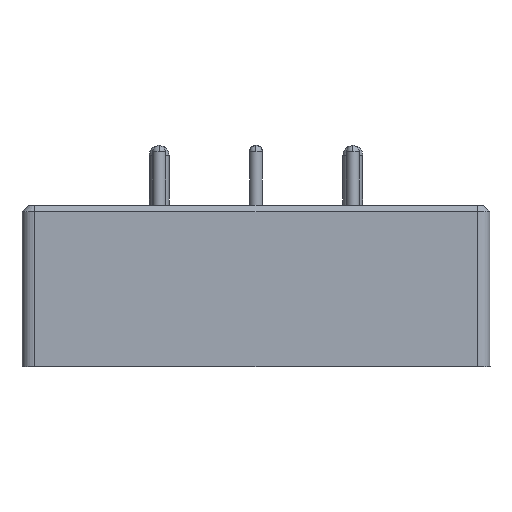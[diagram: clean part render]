
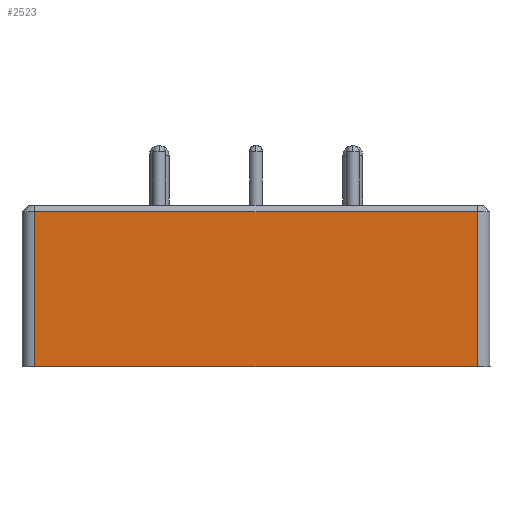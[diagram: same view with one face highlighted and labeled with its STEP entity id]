
A CAD part, left-side view. The second image highlights one B-rep face of the part: STEP entity #2523.
In plain terms, the highlighted planar face has unit normal (-1, 0, 0).
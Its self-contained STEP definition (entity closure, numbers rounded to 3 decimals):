
#305 = LINE ( 'NONE', #4596, #7890 ) ;
#343 = VERTEX_POINT ( 'NONE', #3763 ) ;
#1295 = EDGE_CURVE ( 'NONE', #343, #16796, #11384, .T. ) ;
#1444 = CARTESIAN_POINT ( 'NONE',  ( -1.25, -0.25, 3.4 ) ) ;
#1582 = CARTESIAN_POINT ( 'NONE',  ( -1.25, 34.58, 2.9 ) ) ;
#2523 = ADVANCED_FACE ( 'NONE', ( #15253 ), #6933, .F. ) ;
#2649 = DIRECTION ( 'NONE',  ( 0., 1., 0. ) ) ;
#3215 = DIRECTION ( 'NONE',  ( 0., -1., 0. ) ) ;
#3763 = CARTESIAN_POINT ( 'NONE',  ( -1.25, -0.25, 2.9 ) ) ;
#3834 = EDGE_CURVE ( 'NONE', #6010, #16796, #5975, .T. ) ;
#4303 = ORIENTED_EDGE ( 'NONE', *, *, #5816, .T. ) ;
#4354 = ORIENTED_EDGE ( 'NONE', *, *, #13875, .T. ) ;
#4596 = CARTESIAN_POINT ( 'NONE',  ( -1.25, 34.58, 2.9 ) ) ;
#5816 = EDGE_CURVE ( 'NONE', #343, #17148, #305, .T. ) ;
#5975 = LINE ( 'NONE', #11361, #11166 ) ;
#6010 = VERTEX_POINT ( 'NONE', #7910 ) ;
#6037 = VECTOR ( 'NONE', #17221, 1000. ) ;
#6933 = PLANE ( 'NONE',  #7383 ) ;
#7383 = AXIS2_PLACEMENT_3D ( 'NONE', #8458, #12299, #2649 ) ;
#7890 = VECTOR ( 'NONE', #8820, 1000. ) ;
#7910 = CARTESIAN_POINT ( 'NONE',  ( -1.25, 34.58, -9.3 ) ) ;
#8458 = CARTESIAN_POINT ( 'NONE',  ( -1.25, 17.165, 3.4 ) ) ;
#8519 = DIRECTION ( 'NONE',  ( 0., 0., -1. ) ) ;
#8737 = ORIENTED_EDGE ( 'NONE', *, *, #3834, .T. ) ;
#8820 = DIRECTION ( 'NONE',  ( 0., 1., 0. ) ) ;
#10284 = VECTOR ( 'NONE', #8519, 1000. ) ;
#11166 = VECTOR ( 'NONE', #3215, 1000. ) ;
#11361 = CARTESIAN_POINT ( 'NONE',  ( -1.25, 35.58, -9.3 ) ) ;
#11384 = LINE ( 'NONE', #1444, #10284 ) ;
#12299 = DIRECTION ( 'NONE',  ( 1., 0., 0. ) ) ;
#12649 = EDGE_LOOP ( 'NONE', ( #12807, #4303, #4354, #8737 ) ) ;
#12793 = CARTESIAN_POINT ( 'NONE',  ( -1.25, -0.25, -9.3 ) ) ;
#12807 = ORIENTED_EDGE ( 'NONE', *, *, #1295, .F. ) ;
#13023 = CARTESIAN_POINT ( 'NONE',  ( -1.25, 34.58, 3.4 ) ) ;
#13875 = EDGE_CURVE ( 'NONE', #17148, #6010, #17391, .T. ) ;
#15253 = FACE_OUTER_BOUND ( 'NONE', #12649, .T. ) ;
#16796 = VERTEX_POINT ( 'NONE', #12793 ) ;
#17148 = VERTEX_POINT ( 'NONE', #1582 ) ;
#17221 = DIRECTION ( 'NONE',  ( 0., 0., -1. ) ) ;
#17391 = LINE ( 'NONE', #13023, #6037 ) ;
